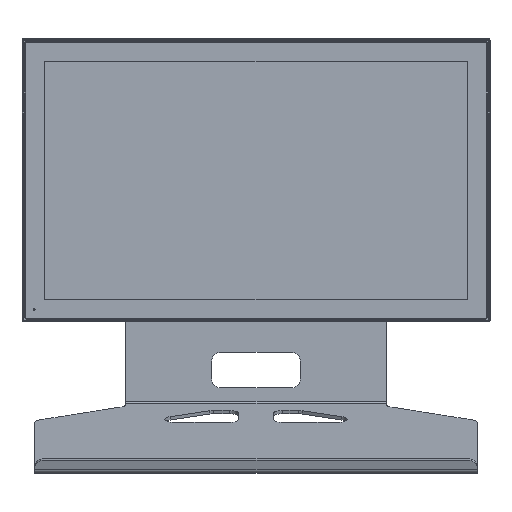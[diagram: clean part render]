
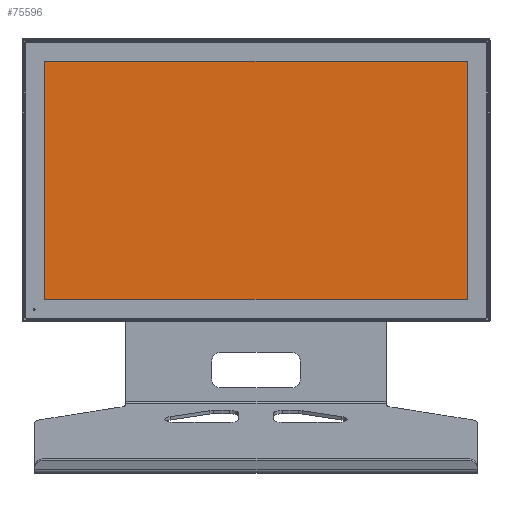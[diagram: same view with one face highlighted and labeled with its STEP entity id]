
A CAD part, top view. The second image highlights one B-rep face of the part: STEP entity #75596.
In plain terms, the highlighted planar face has unit normal (0, 0, 1) as drawn and (0, 1, 0) by its records, which use the part's own axes.
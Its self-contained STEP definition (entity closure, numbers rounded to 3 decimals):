
#6335 = CARTESIAN_POINT ( 'NONE',  ( 0., 2.7, 0. ) ) ;
#8673 = DIRECTION ( 'NONE',  ( 0., 0., -1. ) ) ;
#15489 = CARTESIAN_POINT ( 'NONE',  ( -238.92, 2.7, 134.655 ) ) ;
#18773 = CARTESIAN_POINT ( 'NONE',  ( 238.92, 2.7, 134.655 ) ) ;
#18846 = DIRECTION ( 'NONE',  ( 1., 0., 0. ) ) ;
#24509 = ORIENTED_EDGE ( 'NONE', *, *, #120285, .T. ) ;
#26693 = VERTEX_POINT ( 'NONE', #34533 ) ;
#30165 = EDGE_LOOP ( 'NONE', ( #97027, #142067, #131682, #24509 ) ) ;
#34533 = CARTESIAN_POINT ( 'NONE',  ( 238.92, 2.7, -134.655 ) ) ;
#36664 = AXIS2_PLACEMENT_3D ( 'NONE', #6335, #170887, #18846 ) ;
#38411 = EDGE_CURVE ( 'NONE', #99607, #68454, #142458, .T. ) ;
#45600 = FACE_OUTER_BOUND ( 'NONE', #30165, .T. ) ;
#52097 = CARTESIAN_POINT ( 'NONE',  ( 238.92, 2.7, -134.655 ) ) ;
#53252 = LINE ( 'NONE', #150801, #157632 ) ;
#60004 = VECTOR ( 'NONE', #173022, 1000. ) ;
#61610 = CARTESIAN_POINT ( 'NONE',  ( -238.92, 2.7, 134.655 ) ) ;
#66052 = EDGE_CURVE ( 'NONE', #68454, #26693, #128222, .T. ) ;
#68454 = VERTEX_POINT ( 'NONE', #131732 ) ;
#70757 = DIRECTION ( 'NONE',  ( 0., 0., 1. ) ) ;
#75596 = ADVANCED_FACE ( 'NONE', ( #45600 ), #115786, .T. ) ;
#90740 = VECTOR ( 'NONE', #8673, 1000. ) ;
#92695 = VERTEX_POINT ( 'NONE', #154359 ) ;
#97027 = ORIENTED_EDGE ( 'NONE', *, *, #38411, .T. ) ;
#99607 = VERTEX_POINT ( 'NONE', #15489 ) ;
#107250 = LINE ( 'NONE', #52097, #60004 ) ;
#115786 = PLANE ( 'NONE',  #36664 ) ;
#116758 = VECTOR ( 'NONE', #154948, 1000. ) ;
#120285 = EDGE_CURVE ( 'NONE', #92695, #99607, #53252, .T. ) ;
#128222 = LINE ( 'NONE', #18773, #90740 ) ;
#131682 = ORIENTED_EDGE ( 'NONE', *, *, #166723, .T. ) ;
#131732 = CARTESIAN_POINT ( 'NONE',  ( 238.92, 2.7, 134.655 ) ) ;
#142067 = ORIENTED_EDGE ( 'NONE', *, *, #66052, .T. ) ;
#142458 = LINE ( 'NONE', #61610, #116758 ) ;
#150801 = CARTESIAN_POINT ( 'NONE',  ( -238.92, 2.7, -134.655 ) ) ;
#154359 = CARTESIAN_POINT ( 'NONE',  ( -238.92, 2.7, -134.655 ) ) ;
#154948 = DIRECTION ( 'NONE',  ( 1., 0., 0. ) ) ;
#157632 = VECTOR ( 'NONE', #70757, 1000. ) ;
#166723 = EDGE_CURVE ( 'NONE', #26693, #92695, #107250, .T. ) ;
#170887 = DIRECTION ( 'NONE',  ( 0., 1., 0. ) ) ;
#173022 = DIRECTION ( 'NONE',  ( -1., 0., 0. ) ) ;
